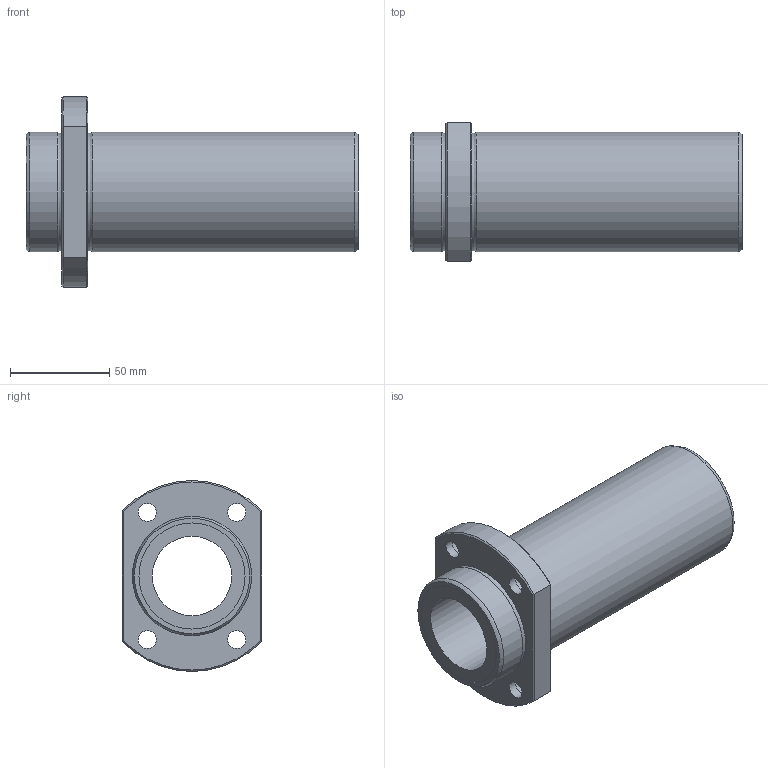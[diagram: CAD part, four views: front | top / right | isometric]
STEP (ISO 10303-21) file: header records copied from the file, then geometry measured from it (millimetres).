
FILE_DESCRIPTION((''),'2;1');
FILE_NAME('C:\Documents and Settings\土屋\My Documents\土屋移動用フォルダ\製品 (図面)\カタログ用3D\変換ファイル\OZAK_3D-CAD(STEP形式)\Part1.-Linear Bearings_ﾘﾆｱﾍﾞｱﾘﾝｸﾞ\09_Maintenance Free_ﾒｲﾝﾃﾅﾝｽﾌﾘｰ\L2017-09-21T14:37:30','2017-09-21T14:37:30',('y'),(''),'Autodesk Inventor 11','Autodesk Inventor 11','');
FILE_SCHEMA(('AUTOMOTIVE_DESIGN { 1 0 10303 214 1 1 1 1 }'));
Length unit declared in the file: millimetre
Products named in the file (1): LFDTB-MF
Bounding box: 167 x 70 x 96 mm (x, y, z)
Volume: 296971 mm3; surface area: 64529.5 mm2
Topology: 1 solids, 1 shells, 39 faces, 75 edges, 46 vertices
Faces by surface type: bspline 14, plane 12, cylinder 7, cone 4, torus 2
Full cylindrical faces by diameter (mm): 40 x1, 53.4 x2, 60 x2
Entity records: 1177 total; most frequent: CARTESIAN_POINT 440, DIRECTION 140, ORIENTED_EDGE 116, EDGE_LOOP 74, AXIS2_PLACEMENT_3D 64, EDGE_CURVE 58, VERTEX_POINT 46, FACE_OUTER_BOUND 39
